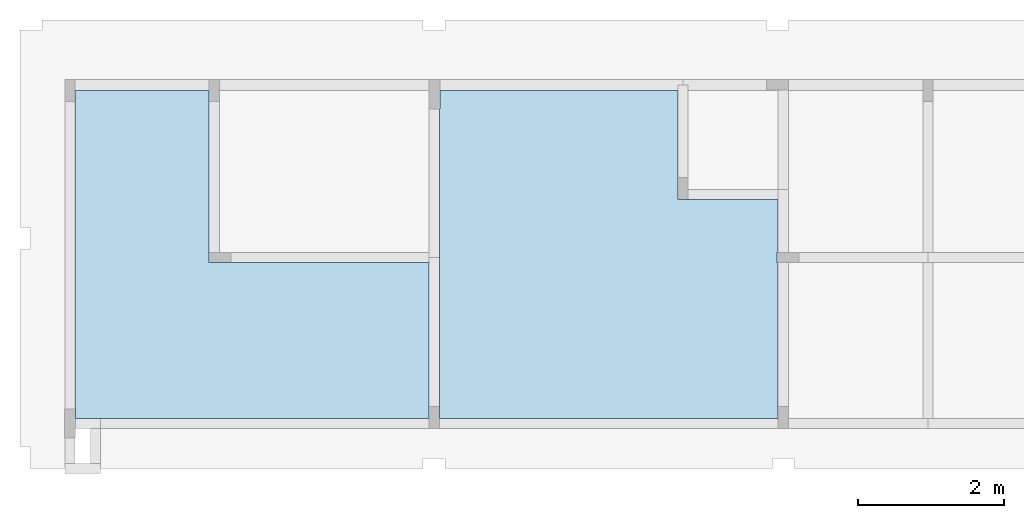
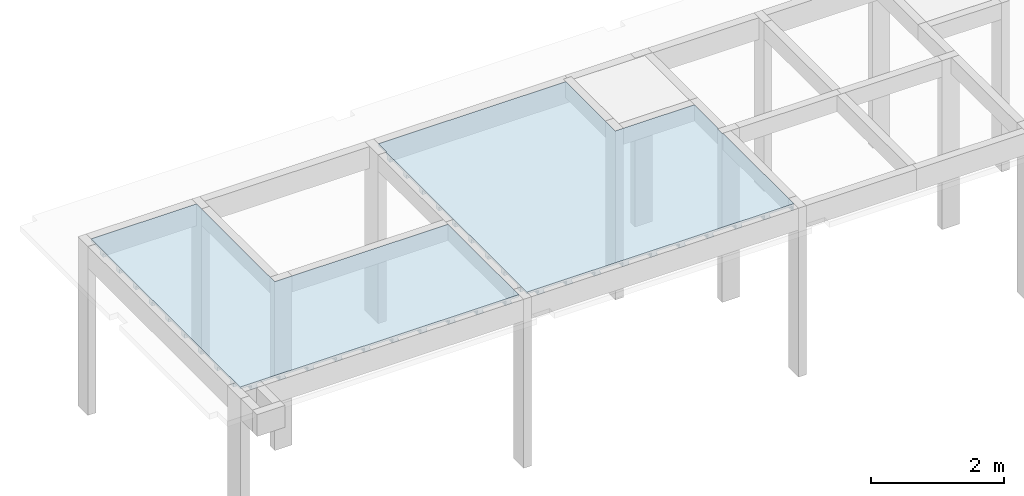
# One storey, part 2 of 4: 2 slabs.
"""IFC4 building model written with IfcOpenShell, lengths in centimetres."""

from ifc_helpers import new_model, si_unit, derived_unit, frame, origin_with_axes, place, context, project, spatial, polyline, outline, extrude, faceted_brep, material, element, save


model = new_model("IFC4")

# Units and contexts
model_context = context("Model", 3, precision=1e-05, world=origin_with_axes(), identifier="Body")
ifc_project = project(units=[si_unit("LENGTHUNIT", "METRE", prefix="CENTI"), si_unit("VOLUMEUNIT", "CUBIC_METRE"), si_unit("AREAUNIT", "SQUARE_METRE"), si_unit("POWERUNIT", "WATT"), si_unit("LUMINOUSFLUXUNIT", "LUMEN"), si_unit("ELECTRICCURRENTUNIT", "AMPERE"), si_unit("PRESSUREUNIT", "PASCAL", prefix="KILO"), si_unit("MASSUNIT", "GRAM", prefix="KILO"), si_unit("PLANEANGLEUNIT", "RADIAN"), derived_unit("VOLUMETRICFLOWRATEUNIT", [(si_unit("LENGTHUNIT", "METRE"), 3), (si_unit("TIMEUNIT", "SECOND"), -1)])], contexts=[model_context])

# Site, building, storey
site_placement = place(None, origin_with_axes())
site = spatial("IfcSite", under=ifc_project, at=site_placement)
building_placement = place(site_placement, frame((0.0, 0.0, 2.0)))
building = spatial("IfcBuilding", under=site, at=building_placement)
placement = place(building_placement, origin_with_axes())
storey_placement = place(placement, frame((0.0, 0.0, 310.0), z_axis=(0.0, 0.0, 1.0), x_axis=(1.0, 0.0, 0.0)))
storey = spatial("IfcBuildingStorey", under=building, at=storey_placement, Name="RESPALDO", CompositionType="ELEMENT", Elevation=312.0)

# Slabs
ifc_material = material(Name="Concreto")
slab_1_placement = place(storey_placement, frame((257.335, 299.575, 0.0), z_axis=(0.0, 0.0, 1.0), x_axis=(1.0, 0.0, 0.0)))
element("IfcSlab", 1, at=slab_1_placement, inside=storey, material=ifc_material, Name="L2", PredefinedType="FLOOR", context=model_context, shape_type="SolidModel", body=[
    extrude(outline(polyline([(241.835, -208.055), (241.815, -11.005), (-58.784, -11.005), (-58.785, 224.055), (-241.835, 224.055), (-241.835, -211.055), (-241.335, -211.055), (-241.335, -224.055), (241.834, -224.055), (241.835, -208.055), (241.835, -208.055)])), frame((0.0, 0.0, -4.0), z_axis=(0.0, 0.0, 1.0), x_axis=(1.0, 0.0, 0.0)), (0.0, 0.0, 1.0), 4.0),
    faceted_brep([(-172.835, -224.055, -12.0), (-172.835, 224.055, -12.0), (-163.835, 224.055, -12.0), (-163.835, -224.055, -12.0), (-163.835, -224.055, -4.0), (-163.835, 224.055, -4.0), (-172.835, 224.055, -4.0), (-172.835, -224.055, -4.0)], [[[0, 1, 2, 3]], [[4, 5, 6, 7]], [[4, 3, 5]], [[3, 2, 5]], [[5, 2, 6]], [[2, 1, 6]], [[6, 1, 7]], [[1, 0, 7]], [[7, 0, 4]], [[0, 3, 4]]]),
    faceted_brep([(-174.335, -224.055, -12.0), (-174.335, 224.055, -12.0), (-172.835, 224.055, -12.0), (-172.835, -224.055, -12.0), (-172.835, -224.055, -9.0), (-172.835, 224.055, -9.0), (-174.335, 224.055, -9.0), (-174.335, -224.055, -9.0)], [[[0, 1, 2, 3]], [[4, 5, 6, 7]], [[4, 3, 5]], [[3, 2, 5]], [[5, 2, 6]], [[2, 1, 6]], [[6, 1, 7]], [[1, 0, 7]], [[7, 0, 4]], [[0, 3, 4]]]),
    faceted_brep([(-163.835, -224.055, -12.0), (-163.835, 224.055, -12.0), (-162.335, 224.055, -12.0), (-162.335, -224.055, -12.0), (-162.335, -224.055, -9.0), (-162.335, 224.055, -9.0), (-163.835, 224.055, -9.0), (-163.835, -224.055, -9.0)], [[[0, 1, 2, 3]], [[4, 5, 6, 7]], [[4, 3, 5]], [[3, 2, 5]], [[5, 2, 6]], [[2, 1, 6]], [[6, 1, 7]], [[1, 0, 7]], [[7, 0, 4]], [[0, 3, 4]]]),
    faceted_brep([(-221.835, -224.055, -12.0), (-221.835, 224.055, -12.0), (-212.835, 224.055, -12.0), (-212.835, -224.055, -12.0), (-212.835, -224.055, -4.0), (-212.835, 224.055, -4.0), (-221.835, 224.055, -4.0), (-221.835, -224.055, -4.0)], [[[0, 1, 2, 3]], [[4, 5, 6, 7]], [[4, 3, 5]], [[3, 2, 5]], [[5, 2, 6]], [[2, 1, 6]], [[6, 1, 7]], [[1, 0, 7]], [[7, 0, 4]], [[0, 3, 4]]]),
    faceted_brep([(-223.335, -224.055, -12.0), (-223.335, 224.055, -12.0), (-221.835, 224.055, -12.0), (-221.835, -224.055, -12.0), (-221.835, -224.055, -9.0), (-221.835, 224.055, -9.0), (-223.335, 224.055, -9.0), (-223.335, -224.055, -9.0)], [[[0, 1, 2, 3]], [[4, 5, 6, 7]], [[4, 3, 5]], [[3, 2, 5]], [[5, 2, 6]], [[2, 1, 6]], [[6, 1, 7]], [[1, 0, 7]], [[7, 0, 4]], [[0, 3, 4]]]),
    faceted_brep([(-212.835, -224.055, -12.0), (-212.835, 224.055, -12.0), (-211.335, 224.055, -12.0), (-211.335, -224.055, -12.0), (-211.335, -224.055, -9.0), (-211.335, 224.055, -9.0), (-212.835, 224.055, -9.0), (-212.835, -224.055, -9.0)], [[[0, 1, 2, 3]], [[4, 5, 6, 7]], [[4, 3, 5]], [[3, 2, 5]], [[5, 2, 6]], [[2, 1, 6]], [[6, 1, 7]], [[1, 0, 7]], [[7, 0, 4]], [[0, 3, 4]]]),
    faceted_brep([(-123.835, -224.055, -12.0), (-123.835, 224.055, -12.0), (-114.835, 224.055, -12.0), (-114.835, -224.055, -12.0), (-114.835, -224.055, -4.0), (-114.835, 224.055, -4.0), (-123.835, 224.055, -4.0), (-123.835, -224.055, -4.0)], [[[0, 1, 2, 3]], [[4, 5, 6, 7]], [[4, 3, 5]], [[3, 2, 5]], [[5, 2, 6]], [[2, 1, 6]], [[6, 1, 7]], [[1, 0, 7]], [[7, 0, 4]], [[0, 3, 4]]]),
    faceted_brep([(-125.335, -224.055, -12.0), (-125.335, 224.055, -12.0), (-123.835, 224.055, -12.0), (-123.835, -224.055, -12.0), (-123.835, -224.055, -9.0), (-123.835, 224.055, -9.0), (-125.335, 224.055, -9.0), (-125.335, -224.055, -9.0)], [[[0, 1, 2, 3]], [[4, 5, 6, 7]], [[4, 3, 5]], [[3, 2, 5]], [[5, 2, 6]], [[2, 1, 6]], [[6, 1, 7]], [[1, 0, 7]], [[7, 0, 4]], [[0, 3, 4]]]),
    faceted_brep([(-114.835, -224.055, -12.0), (-114.835, 224.055, -12.0), (-113.335, 224.055, -12.0), (-113.335, -224.055, -12.0), (-113.335, -224.055, -9.0), (-113.335, 224.055, -9.0), (-114.835, 224.055, -9.0), (-114.835, -224.055, -9.0)], [[[0, 1, 2, 3]], [[4, 5, 6, 7]], [[4, 3, 5]], [[3, 2, 5]], [[5, 2, 6]], [[2, 1, 6]], [[6, 1, 7]], [[1, 0, 7]], [[7, 0, 4]], [[0, 3, 4]]]),
    faceted_brep([(-74.835, -224.055, -12.0), (-74.835, 224.055, -12.0), (-65.835, 224.055, -12.0), (-65.835, -224.055, -12.0), (-65.835, -224.055, -4.0), (-65.835, 224.055, -4.0), (-74.835, 224.055, -4.0), (-74.835, -224.055, -4.0)], [[[0, 1, 2, 3]], [[4, 5, 6, 7]], [[4, 3, 5]], [[3, 2, 5]], [[5, 2, 6]], [[2, 1, 6]], [[6, 1, 7]], [[1, 0, 7]], [[7, 0, 4]], [[0, 3, 4]]]),
    faceted_brep([(-76.335, -224.055, -12.0), (-76.335, 224.055, -12.0), (-74.835, 224.055, -12.0), (-74.835, -224.055, -12.0), (-74.835, -224.055, -9.0), (-74.835, 224.055, -9.0), (-76.335, 224.055, -9.0), (-76.335, -224.055, -9.0)], [[[0, 1, 2, 3]], [[4, 5, 6, 7]], [[4, 3, 5]], [[3, 2, 5]], [[5, 2, 6]], [[2, 1, 6]], [[6, 1, 7]], [[1, 0, 7]], [[7, 0, 4]], [[0, 3, 4]]]),
    faceted_brep([(-65.835, -224.055, -12.0), (-65.835, 224.055, -12.0), (-64.335, 224.055, -12.0), (-64.335, -224.055, -12.0), (-64.335, -224.055, -9.0), (-64.335, 224.055, -9.0), (-65.835, 224.055, -9.0), (-65.835, -224.055, -9.0)], [[[0, 1, 2, 3]], [[4, 5, 6, 7]], [[4, 3, 5]], [[3, 2, 5]], [[5, 2, 6]], [[2, 1, 6]], [[6, 1, 7]], [[1, 0, 7]], [[7, 0, 4]], [[0, 3, 4]]]),
    faceted_brep([(-25.835, -224.055, -12.0), (-25.835, -11.005, -12.0), (-16.835, -11.005, -12.0), (-16.835, -224.055, -12.0), (-16.835, -224.055, -4.0), (-16.835, -11.005, -4.0), (-25.835, -11.005, -4.0), (-25.835, -224.055, -4.0)], [[[0, 1, 2, 3]], [[4, 5, 6, 7]], [[4, 3, 5]], [[3, 2, 5]], [[5, 2, 6]], [[2, 1, 6]], [[6, 1, 7]], [[1, 0, 7]], [[7, 0, 4]], [[0, 3, 4]]]),
    faceted_brep([(-27.335, -224.055, -12.0), (-27.335, -11.005, -12.0), (-25.835, -11.005, -12.0), (-25.835, -224.055, -12.0), (-25.835, -224.055, -9.0), (-25.835, -11.005, -9.0), (-27.335, -11.005, -9.0), (-27.335, -224.055, -9.0)], [[[0, 1, 2, 3]], [[4, 5, 6, 7]], [[4, 3, 5]], [[3, 2, 5]], [[5, 2, 6]], [[2, 1, 6]], [[6, 1, 7]], [[1, 0, 7]], [[7, 0, 4]], [[0, 3, 4]]]),
    faceted_brep([(-16.835, -224.055, -12.0), (-16.835, -11.005, -12.0), (-15.335, -11.005, -12.0), (-15.335, -224.055, -12.0), (-15.335, -224.055, -9.0), (-15.335, -11.005, -9.0), (-16.835, -11.005, -9.0), (-16.835, -224.055, -9.0)], [[[0, 1, 2, 3]], [[4, 5, 6, 7]], [[4, 3, 5]], [[3, 2, 5]], [[5, 2, 6]], [[2, 1, 6]], [[6, 1, 7]], [[1, 0, 7]], [[7, 0, 4]], [[0, 3, 4]]]),
    faceted_brep([(23.165, -224.055, -12.0), (23.165, -11.005, -12.0), (32.165, -11.005, -12.0), (32.165, -224.055, -12.0), (32.165, -224.055, -4.0), (32.165, -11.005, -4.0), (23.165, -11.005, -4.0), (23.165, -224.055, -4.0)], [[[0, 1, 2, 3]], [[4, 5, 6, 7]], [[4, 3, 5]], [[3, 2, 5]], [[5, 2, 6]], [[2, 1, 6]], [[6, 1, 7]], [[1, 0, 7]], [[7, 0, 4]], [[0, 3, 4]]]),
    faceted_brep([(21.665, -224.055, -12.0), (21.665, -11.005, -12.0), (23.165, -11.005, -12.0), (23.165, -224.055, -12.0), (23.165, -224.055, -9.0), (23.165, -11.005, -9.0), (21.665, -11.005, -9.0), (21.665, -224.055, -9.0)], [[[0, 1, 2, 3]], [[4, 5, 6, 7]], [[4, 3, 5]], [[3, 2, 5]], [[5, 2, 6]], [[2, 1, 6]], [[6, 1, 7]], [[1, 0, 7]], [[7, 0, 4]], [[0, 3, 4]]]),
    faceted_brep([(32.165, -224.055, -12.0), (32.165, -11.005, -12.0), (33.665, -11.005, -12.0), (33.665, -224.055, -12.0), (33.665, -224.055, -9.0), (33.665, -11.005, -9.0), (32.165, -11.005, -9.0), (32.165, -224.055, -9.0)], [[[0, 1, 2, 3]], [[4, 5, 6, 7]], [[4, 3, 5]], [[3, 2, 5]], [[5, 2, 6]], [[2, 1, 6]], [[6, 1, 7]], [[1, 0, 7]], [[7, 0, 4]], [[0, 3, 4]]]),
    faceted_brep([(72.165, -224.055, -12.0), (72.165, -11.005, -12.0), (81.165, -11.005, -12.0), (81.165, -224.055, -12.0), (81.165, -224.055, -4.0), (81.165, -11.005, -4.0), (72.165, -11.005, -4.0), (72.165, -224.055, -4.0)], [[[0, 1, 2, 3]], [[4, 5, 6, 7]], [[4, 3, 5]], [[3, 2, 5]], [[5, 2, 6]], [[2, 1, 6]], [[6, 1, 7]], [[1, 0, 7]], [[7, 0, 4]], [[0, 3, 4]]]),
    faceted_brep([(70.665, -224.055, -12.0), (70.665, -11.005, -12.0), (72.165, -11.005, -12.0), (72.165, -224.055, -12.0), (72.165, -224.055, -9.0), (72.165, -11.005, -9.0), (70.665, -11.005, -9.0), (70.665, -224.055, -9.0)], [[[0, 1, 2, 3]], [[4, 5, 6, 7]], [[4, 3, 5]], [[3, 2, 5]], [[5, 2, 6]], [[2, 1, 6]], [[6, 1, 7]], [[1, 0, 7]], [[7, 0, 4]], [[0, 3, 4]]]),
    faceted_brep([(81.165, -224.055, -12.0), (81.165, -11.005, -12.0), (82.665, -11.005, -12.0), (82.665, -224.055, -12.0), (82.665, -224.055, -9.0), (82.665, -11.005, -9.0), (81.165, -11.005, -9.0), (81.165, -224.055, -9.0)], [[[0, 1, 2, 3]], [[4, 5, 6, 7]], [[4, 3, 5]], [[3, 2, 5]], [[5, 2, 6]], [[2, 1, 6]], [[6, 1, 7]], [[1, 0, 7]], [[7, 0, 4]], [[0, 3, 4]]]),
    faceted_brep([(121.165, -224.055, -12.0), (121.165, -11.005, -12.0), (130.165, -11.005, -12.0), (130.165, -224.055, -12.0), (130.165, -224.055, -4.0), (130.165, -11.005, -4.0), (121.165, -11.005, -4.0), (121.165, -224.055, -4.0)], [[[0, 1, 2, 3]], [[4, 5, 6, 7]], [[4, 3, 5]], [[3, 2, 5]], [[5, 2, 6]], [[2, 1, 6]], [[6, 1, 7]], [[1, 0, 7]], [[7, 0, 4]], [[0, 3, 4]]]),
    faceted_brep([(119.665, -224.055, -12.0), (119.665, -11.005, -12.0), (121.165, -11.005, -12.0), (121.165, -224.055, -12.0), (121.165, -224.055, -9.0), (121.165, -11.005, -9.0), (119.665, -11.005, -9.0), (119.665, -224.055, -9.0)], [[[0, 1, 2, 3]], [[4, 5, 6, 7]], [[4, 3, 5]], [[3, 2, 5]], [[5, 2, 6]], [[2, 1, 6]], [[6, 1, 7]], [[1, 0, 7]], [[7, 0, 4]], [[0, 3, 4]]]),
    faceted_brep([(130.165, -224.055, -12.0), (130.165, -11.005, -12.0), (131.665, -11.005, -12.0), (131.665, -224.055, -12.0), (131.665, -224.055, -9.0), (131.665, -11.005, -9.0), (130.165, -11.005, -9.0), (130.165, -224.055, -9.0)], [[[0, 1, 2, 3]], [[4, 5, 6, 7]], [[4, 3, 5]], [[3, 2, 5]], [[5, 2, 6]], [[2, 1, 6]], [[6, 1, 7]], [[1, 0, 7]], [[7, 0, 4]], [[0, 3, 4]]]),
    faceted_brep([(170.165, -224.055, -12.0), (170.165, -11.005, -12.0), (179.165, -11.005, -12.0), (179.165, -224.055, -12.0), (179.165, -224.055, -4.0), (179.165, -11.005, -4.0), (170.165, -11.005, -4.0), (170.165, -224.055, -4.0)], [[[0, 1, 2, 3]], [[4, 5, 6, 7]], [[4, 3, 5]], [[3, 2, 5]], [[5, 2, 6]], [[2, 1, 6]], [[6, 1, 7]], [[1, 0, 7]], [[7, 0, 4]], [[0, 3, 4]]]),
    faceted_brep([(168.665, -224.055, -12.0), (168.665, -11.005, -12.0), (170.165, -11.005, -12.0), (170.165, -224.055, -12.0), (170.165, -224.055, -9.0), (170.165, -11.005, -9.0), (168.665, -11.005, -9.0), (168.665, -224.055, -9.0)], [[[0, 1, 2, 3]], [[4, 5, 6, 7]], [[4, 3, 5]], [[3, 2, 5]], [[5, 2, 6]], [[2, 1, 6]], [[6, 1, 7]], [[1, 0, 7]], [[7, 0, 4]], [[0, 3, 4]]]),
    faceted_brep([(179.165, -224.055, -12.0), (179.165, -11.005, -12.0), (180.665, -11.005, -12.0), (180.665, -224.055, -12.0), (180.665, -224.055, -9.0), (180.665, -11.005, -9.0), (179.165, -11.005, -9.0), (179.165, -224.055, -9.0)], [[[0, 1, 2, 3]], [[4, 5, 6, 7]], [[4, 3, 5]], [[3, 2, 5]], [[5, 2, 6]], [[2, 1, 6]], [[6, 1, 7]], [[1, 0, 7]], [[7, 0, 4]], [[0, 3, 4]]]),
    faceted_brep([(219.165, -224.055, -12.0), (219.165, -11.005, -12.0), (228.165, -11.005, -12.0), (228.165, -224.055, -12.0), (228.165, -224.055, -4.0), (228.165, -11.005, -4.0), (219.165, -11.005, -4.0), (219.165, -224.055, -4.0)], [[[0, 1, 2, 3]], [[4, 5, 6, 7]], [[4, 3, 5]], [[3, 2, 5]], [[5, 2, 6]], [[2, 1, 6]], [[6, 1, 7]], [[1, 0, 7]], [[7, 0, 4]], [[0, 3, 4]]]),
    faceted_brep([(217.665, -224.055, -12.0), (217.665, -11.005, -12.0), (219.165, -11.005, -12.0), (219.165, -224.055, -12.0), (219.165, -224.055, -9.0), (219.165, -11.005, -9.0), (217.665, -11.005, -9.0), (217.665, -224.055, -9.0)], [[[0, 1, 2, 3]], [[4, 5, 6, 7]], [[4, 3, 5]], [[3, 2, 5]], [[5, 2, 6]], [[2, 1, 6]], [[6, 1, 7]], [[1, 0, 7]], [[7, 0, 4]], [[0, 3, 4]]]),
    faceted_brep([(228.165, -224.055, -12.0), (228.165, -11.005, -12.0), (229.665, -11.005, -12.0), (229.665, -224.055, -12.0), (229.665, -224.055, -9.0), (229.665, -11.005, -9.0), (228.165, -11.005, -9.0), (228.165, -224.055, -9.0)], [[[0, 1, 2, 3]], [[4, 5, 6, 7]], [[4, 3, 5]], [[3, 2, 5]], [[5, 2, 6]], [[2, 1, 6]], [[6, 1, 7]], [[1, 0, 7]], [[7, 0, 4]], [[0, 3, 4]]]),
    faceted_brep([(-241.835, -195.555, -12.0), (241.83145834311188, -195.555, -12.0), (241.83226097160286, -204.555, -12.0), (-241.835, -204.555, -12.0), (-241.835, -204.555, -4.0), (241.83226097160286, -204.555, -4.0), (241.83145834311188, -195.555, -4.0), (-241.835, -195.555, -4.0)], [[[0, 1, 2, 3]], [[4, 5, 6, 7]], [[4, 3, 5]], [[3, 2, 5]], [[5, 2, 6]], [[2, 1, 6]], [[6, 1, 7]], [[1, 0, 7]], [[7, 0, 4]], [[0, 3, 4]]]),
    faceted_brep([(-241.835, -146.555, -12.0), (241.82708847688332, -146.555, -12.0), (241.8278911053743, -155.555, -12.0), (-241.835, -155.555, -12.0), (-241.835, -155.555, -4.0), (241.8278911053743, -155.555, -4.0), (241.82708847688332, -146.555, -4.0), (-241.835, -146.555, -4.0)], [[[0, 1, 2, 3]], [[4, 5, 6, 7]], [[4, 3, 5]], [[3, 2, 5]], [[5, 2, 6]], [[2, 1, 6]], [[6, 1, 7]], [[1, 0, 7]], [[7, 0, 4]], [[0, 3, 4]]]),
    faceted_brep([(-241.835, -97.555, -12.0), (241.82271861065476, -97.555, -12.0), (241.8235212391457, -106.555, -12.0), (-241.835, -106.555, -12.0), (-241.835, -106.555, -4.0), (241.8235212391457, -106.555, -4.0), (241.82271861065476, -97.555, -4.0), (-241.835, -97.555, -4.0)], [[[0, 1, 2, 3]], [[4, 5, 6, 7]], [[4, 3, 5]], [[3, 2, 5]], [[5, 2, 6]], [[2, 1, 6]], [[6, 1, 7]], [[1, 0, 7]], [[7, 0, 4]], [[0, 3, 4]]]),
    faceted_brep([(-241.835, -48.555, -12.0), (241.81834874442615, -48.555, -12.0), (241.81915137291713, -57.555, -12.0), (-241.835, -57.555, -12.0), (-241.835, -57.555, -4.0), (241.81915137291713, -57.555, -4.0), (241.81834874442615, -48.555, -4.0), (-241.835, -48.555, -4.0)], [[[0, 1, 2, 3]], [[4, 5, 6, 7]], [[4, 3, 5]], [[3, 2, 5]], [[5, 2, 6]], [[2, 1, 6]], [[6, 1, 7]], [[1, 0, 7]], [[7, 0, 4]], [[0, 3, 4]]]),
    faceted_brep([(-241.835, 0.445, -12.0), (-58.7845, 0.445, -12.0), (-58.7845, -8.555, -12.0), (-241.835, -8.555, -12.0), (-241.835, -8.555, -4.0), (-58.7845, -8.555, -4.0), (-58.7845, 0.445, -4.0), (-241.835, 0.445, -4.0)], [[[0, 1, 2, 3]], [[4, 5, 6, 7]], [[4, 3, 5]], [[3, 2, 5]], [[5, 2, 6]], [[2, 1, 6]], [[6, 1, 7]], [[1, 0, 7]], [[7, 0, 4]], [[0, 3, 4]]]),
    faceted_brep([(-241.835, 49.445, -12.0), (-58.7845, 49.445, -12.0), (-58.7845, 40.445, -12.0), (-241.835, 40.445, -12.0), (-241.835, 40.445, -4.0), (-58.7845, 40.445, -4.0), (-58.7845, 49.445, -4.0), (-241.835, 49.445, -4.0)], [[[0, 1, 2, 3]], [[4, 5, 6, 7]], [[4, 3, 5]], [[3, 2, 5]], [[5, 2, 6]], [[2, 1, 6]], [[6, 1, 7]], [[1, 0, 7]], [[7, 0, 4]], [[0, 3, 4]]]),
    faceted_brep([(-241.835, 98.445, -12.0), (-58.7845, 98.445, -12.0), (-58.7845, 89.445, -12.0), (-241.835, 89.445, -12.0), (-241.835, 89.445, -4.0), (-58.7845, 89.445, -4.0), (-58.7845, 98.445, -4.0), (-241.835, 98.445, -4.0)], [[[0, 1, 2, 3]], [[4, 5, 6, 7]], [[4, 3, 5]], [[3, 2, 5]], [[5, 2, 6]], [[2, 1, 6]], [[6, 1, 7]], [[1, 0, 7]], [[7, 0, 4]], [[0, 3, 4]]]),
    faceted_brep([(-241.835, 147.445, -12.0), (-58.7845, 147.445, -12.0), (-58.7845, 138.445, -12.0), (-241.835, 138.445, -12.0), (-241.835, 138.445, -4.0), (-58.7845, 138.445, -4.0), (-58.7845, 147.445, -4.0), (-241.835, 147.445, -4.0)], [[[0, 1, 2, 3]], [[4, 5, 6, 7]], [[4, 3, 5]], [[3, 2, 5]], [[5, 2, 6]], [[2, 1, 6]], [[6, 1, 7]], [[1, 0, 7]], [[7, 0, 4]], [[0, 3, 4]]]),
    faceted_brep([(-241.835, 196.445, -12.0), (-58.7845, 196.445, -12.0), (-58.7845, 187.445, -12.0), (-241.835, 187.445, -12.0), (-241.835, 187.445, -4.0), (-58.7845, 187.445, -4.0), (-58.7845, 196.445, -4.0), (-241.835, 196.445, -4.0)], [[[0, 1, 2, 3]], [[4, 5, 6, 7]], [[4, 3, 5]], [[3, 2, 5]], [[5, 2, 6]], [[2, 1, 6]], [[6, 1, 7]], [[1, 0, 7]], [[7, 0, 4]], [[0, 3, 4]]]),
])
slab_2_placement = place(storey_placement, frame((744.715, 299.5745, 0.0), z_axis=(0.0, 0.0, 1.0), x_axis=(1.0, 0.0, 0.0)))
element("IfcSlab", 2, at=slab_2_placement, inside=storey, material=ifc_material, Name="L4", PredefinedType="FLOOR", context=model_context, shape_type="SolidModel", body=[
    extrude(outline(polyline([(231.564, -10.994), (230.064, -10.995), (230.064, 3.004), (231.564, 3.004), (231.565, 75.015), (94.525, 75.014), (94.524, 224.054), (-230.565, 224.054), (-230.565, 199.055), (-231.565, 199.055), (-231.565, -4.005), (-231.544, -224.055), (231.564, -224.055), (231.564, -10.994), (231.564, -10.994)])), frame((0.0, 0.0005, -4.0), z_axis=(0.0, 0.0, 1.0), x_axis=(1.0, 0.0, 0.0)), (0.0, 0.0, 1.0), 4.0),
    faceted_brep([(-211.545, -224.0545, -12.0), (-211.545, 224.0545, -12.0), (-202.545, 224.0545, -12.0), (-202.545, -224.0545, -12.0), (-202.545, -224.0545, -4.0), (-202.545, 224.0545, -4.0), (-211.545, 224.0545, -4.0), (-211.545, -224.0545, -4.0)], [[[0, 1, 2, 3]], [[4, 5, 6, 7]], [[4, 3, 5]], [[3, 2, 5]], [[5, 2, 6]], [[2, 1, 6]], [[6, 1, 7]], [[1, 0, 7]], [[7, 0, 4]], [[0, 3, 4]]]),
    faceted_brep([(-213.045, -224.0545, -12.0), (-213.045, 224.0545, -12.0), (-211.545, 224.0545, -12.0), (-211.545, -224.0545, -12.0), (-211.545, -224.0545, -9.0), (-211.545, 224.0545, -9.0), (-213.045, 224.0545, -9.0), (-213.045, -224.0545, -9.0)], [[[0, 1, 2, 3]], [[4, 5, 6, 7]], [[4, 3, 5]], [[3, 2, 5]], [[5, 2, 6]], [[2, 1, 6]], [[6, 1, 7]], [[1, 0, 7]], [[7, 0, 4]], [[0, 3, 4]]]),
    faceted_brep([(-202.545, -224.0545, -12.0), (-202.545, 224.0545, -12.0), (-201.045, 224.0545, -12.0), (-201.045, -224.0545, -12.0), (-201.045, -224.0545, -9.0), (-201.045, 224.0545, -9.0), (-202.545, 224.0545, -9.0), (-202.545, -224.0545, -9.0)], [[[0, 1, 2, 3]], [[4, 5, 6, 7]], [[4, 3, 5]], [[3, 2, 5]], [[5, 2, 6]], [[2, 1, 6]], [[6, 1, 7]], [[1, 0, 7]], [[7, 0, 4]], [[0, 3, 4]]]),
    faceted_brep([(-162.545, -224.0545, -12.0), (-162.545, 224.0545, -12.0), (-153.545, 224.0545, -12.0), (-153.545, -224.0545, -12.0), (-153.545, -224.0545, -4.0), (-153.545, 224.0545, -4.0), (-162.545, 224.0545, -4.0), (-162.545, -224.0545, -4.0)], [[[0, 1, 2, 3]], [[4, 5, 6, 7]], [[4, 3, 5]], [[3, 2, 5]], [[5, 2, 6]], [[2, 1, 6]], [[6, 1, 7]], [[1, 0, 7]], [[7, 0, 4]], [[0, 3, 4]]]),
    faceted_brep([(-164.045, -224.0545, -12.0), (-164.045, 224.0545, -12.0), (-162.545, 224.0545, -12.0), (-162.545, -224.0545, -12.0), (-162.545, -224.0545, -9.0), (-162.545, 224.0545, -9.0), (-164.045, 224.0545, -9.0), (-164.045, -224.0545, -9.0)], [[[0, 1, 2, 3]], [[4, 5, 6, 7]], [[4, 3, 5]], [[3, 2, 5]], [[5, 2, 6]], [[2, 1, 6]], [[6, 1, 7]], [[1, 0, 7]], [[7, 0, 4]], [[0, 3, 4]]]),
    faceted_brep([(-153.545, -224.0545, -12.0), (-153.545, 224.0545, -12.0), (-152.045, 224.0545, -12.0), (-152.045, -224.0545, -12.0), (-152.045, -224.0545, -9.0), (-152.045, 224.0545, -9.0), (-153.545, 224.0545, -9.0), (-153.545, -224.0545, -9.0)], [[[0, 1, 2, 3]], [[4, 5, 6, 7]], [[4, 3, 5]], [[3, 2, 5]], [[5, 2, 6]], [[2, 1, 6]], [[6, 1, 7]], [[1, 0, 7]], [[7, 0, 4]], [[0, 3, 4]]]),
    faceted_brep([(-113.545, -224.0545, -12.0), (-113.545, 224.0545, -12.0), (-104.545, 224.0545, -12.0), (-104.545, -224.0545, -12.0), (-104.545, -224.0545, -4.0), (-104.545, 224.0545, -4.0), (-113.545, 224.0545, -4.0), (-113.545, -224.0545, -4.0)], [[[0, 1, 2, 3]], [[4, 5, 6, 7]], [[4, 3, 5]], [[3, 2, 5]], [[5, 2, 6]], [[2, 1, 6]], [[6, 1, 7]], [[1, 0, 7]], [[7, 0, 4]], [[0, 3, 4]]]),
    faceted_brep([(-115.045, -224.0545, -12.0), (-115.045, 224.0545, -12.0), (-113.545, 224.0545, -12.0), (-113.545, -224.0545, -12.0), (-113.545, -224.0545, -9.0), (-113.545, 224.0545, -9.0), (-115.045, 224.0545, -9.0), (-115.045, -224.0545, -9.0)], [[[0, 1, 2, 3]], [[4, 5, 6, 7]], [[4, 3, 5]], [[3, 2, 5]], [[5, 2, 6]], [[2, 1, 6]], [[6, 1, 7]], [[1, 0, 7]], [[7, 0, 4]], [[0, 3, 4]]]),
    faceted_brep([(-104.545, -224.0545, -12.0), (-104.545, 224.0545, -12.0), (-103.045, 224.0545, -12.0), (-103.045, -224.0545, -12.0), (-103.045, -224.0545, -9.0), (-103.045, 224.0545, -9.0), (-104.545, 224.0545, -9.0), (-104.545, -224.0545, -9.0)], [[[0, 1, 2, 3]], [[4, 5, 6, 7]], [[4, 3, 5]], [[3, 2, 5]], [[5, 2, 6]], [[2, 1, 6]], [[6, 1, 7]], [[1, 0, 7]], [[7, 0, 4]], [[0, 3, 4]]]),
    faceted_brep([(-64.545, -224.0545, -12.0), (-64.545, 224.0545, -12.0), (-55.545, 224.0545, -12.0), (-55.545, -224.0545, -12.0), (-55.545, -224.0545, -4.0), (-55.545, 224.0545, -4.0), (-64.545, 224.0545, -4.0), (-64.545, -224.0545, -4.0)], [[[0, 1, 2, 3]], [[4, 5, 6, 7]], [[4, 3, 5]], [[3, 2, 5]], [[5, 2, 6]], [[2, 1, 6]], [[6, 1, 7]], [[1, 0, 7]], [[7, 0, 4]], [[0, 3, 4]]]),
    faceted_brep([(-66.045, -224.0545, -12.0), (-66.045, 224.0545, -12.0), (-64.545, 224.0545, -12.0), (-64.545, -224.0545, -12.0), (-64.545, -224.0545, -9.0), (-64.545, 224.0545, -9.0), (-66.045, 224.0545, -9.0), (-66.045, -224.0545, -9.0)], [[[0, 1, 2, 3]], [[4, 5, 6, 7]], [[4, 3, 5]], [[3, 2, 5]], [[5, 2, 6]], [[2, 1, 6]], [[6, 1, 7]], [[1, 0, 7]], [[7, 0, 4]], [[0, 3, 4]]]),
    faceted_brep([(-55.545, -224.0545, -12.0), (-55.545, 224.0545, -12.0), (-54.045, 224.0545, -12.0), (-54.045, -224.0545, -12.0), (-54.045, -224.0545, -9.0), (-54.045, 224.0545, -9.0), (-55.545, 224.0545, -9.0), (-55.545, -224.0545, -9.0)], [[[0, 1, 2, 3]], [[4, 5, 6, 7]], [[4, 3, 5]], [[3, 2, 5]], [[5, 2, 6]], [[2, 1, 6]], [[6, 1, 7]], [[1, 0, 7]], [[7, 0, 4]], [[0, 3, 4]]]),
    faceted_brep([(-15.545, -224.0545, -12.0), (-15.545, 224.0545, -12.0), (-6.545, 224.0545, -12.0), (-6.545, -224.0545, -12.0), (-6.545, -224.0545, -4.0), (-6.545, 224.0545, -4.0), (-15.545, 224.0545, -4.0), (-15.545, -224.0545, -4.0)], [[[0, 1, 2, 3]], [[4, 5, 6, 7]], [[4, 3, 5]], [[3, 2, 5]], [[5, 2, 6]], [[2, 1, 6]], [[6, 1, 7]], [[1, 0, 7]], [[7, 0, 4]], [[0, 3, 4]]]),
    faceted_brep([(-17.045, -224.0545, -12.0), (-17.045, 224.0545, -12.0), (-15.545, 224.0545, -12.0), (-15.545, -224.0545, -12.0), (-15.545, -224.0545, -9.0), (-15.545, 224.0545, -9.0), (-17.045, 224.0545, -9.0), (-17.045, -224.0545, -9.0)], [[[0, 1, 2, 3]], [[4, 5, 6, 7]], [[4, 3, 5]], [[3, 2, 5]], [[5, 2, 6]], [[2, 1, 6]], [[6, 1, 7]], [[1, 0, 7]], [[7, 0, 4]], [[0, 3, 4]]]),
    faceted_brep([(-6.545, -224.0545, -12.0), (-6.545, 224.0545, -12.0), (-5.045, 224.0545, -12.0), (-5.045, -224.0545, -12.0), (-5.045, -224.0545, -9.0), (-5.045, 224.0545, -9.0), (-6.545, 224.0545, -9.0), (-6.545, -224.0545, -9.0)], [[[0, 1, 2, 3]], [[4, 5, 6, 7]], [[4, 3, 5]], [[3, 2, 5]], [[5, 2, 6]], [[2, 1, 6]], [[6, 1, 7]], [[1, 0, 7]], [[7, 0, 4]], [[0, 3, 4]]]),
    faceted_brep([(33.455, -224.0545, -12.0), (33.455, 224.0545, -12.0), (42.455, 224.0545, -12.0), (42.455, -224.0545, -12.0), (42.455, -224.0545, -4.0), (42.455, 224.0545, -4.0), (33.455, 224.0545, -4.0), (33.455, -224.0545, -4.0)], [[[0, 1, 2, 3]], [[4, 5, 6, 7]], [[4, 3, 5]], [[3, 2, 5]], [[5, 2, 6]], [[2, 1, 6]], [[6, 1, 7]], [[1, 0, 7]], [[7, 0, 4]], [[0, 3, 4]]]),
    faceted_brep([(31.955, -224.0545, -12.0), (31.955, 224.0545, -12.0), (33.455, 224.0545, -12.0), (33.455, -224.0545, -12.0), (33.455, -224.0545, -9.0), (33.455, 224.0545, -9.0), (31.955, 224.0545, -9.0), (31.955, -224.0545, -9.0)], [[[0, 1, 2, 3]], [[4, 5, 6, 7]], [[4, 3, 5]], [[3, 2, 5]], [[5, 2, 6]], [[2, 1, 6]], [[6, 1, 7]], [[1, 0, 7]], [[7, 0, 4]], [[0, 3, 4]]]),
    faceted_brep([(42.455, -224.0545, -12.0), (42.455, 224.0545, -12.0), (43.955, 224.0545, -12.0), (43.955, -224.0545, -12.0), (43.955, -224.0545, -9.0), (43.955, 224.0545, -9.0), (42.455, 224.0545, -9.0), (42.455, -224.0545, -9.0)], [[[0, 1, 2, 3]], [[4, 5, 6, 7]], [[4, 3, 5]], [[3, 2, 5]], [[5, 2, 6]], [[2, 1, 6]], [[6, 1, 7]], [[1, 0, 7]], [[7, 0, 4]], [[0, 3, 4]]]),
    faceted_brep([(82.455, -224.0545, -12.0), (82.455, 224.0545, -12.0), (91.455, 224.0545, -12.0), (91.455, -224.0545, -12.0), (91.455, -224.0545, -4.0), (91.455, 224.0545, -4.0), (82.455, 224.0545, -4.0), (82.455, -224.0545, -4.0)], [[[0, 1, 2, 3]], [[4, 5, 6, 7]], [[4, 3, 5]], [[3, 2, 5]], [[5, 2, 6]], [[2, 1, 6]], [[6, 1, 7]], [[1, 0, 7]], [[7, 0, 4]], [[0, 3, 4]]]),
    faceted_brep([(80.955, -224.0545, -12.0), (80.955, 224.0545, -12.0), (82.455, 224.0545, -12.0), (82.455, -224.0545, -12.0), (82.455, -224.0545, -9.0), (82.455, 224.0545, -9.0), (80.955, 224.0545, -9.0), (80.955, -224.0545, -9.0)], [[[0, 1, 2, 3]], [[4, 5, 6, 7]], [[4, 3, 5]], [[3, 2, 5]], [[5, 2, 6]], [[2, 1, 6]], [[6, 1, 7]], [[1, 0, 7]], [[7, 0, 4]], [[0, 3, 4]]]),
    faceted_brep([(91.455, -224.0545, -12.0), (91.455, 224.0545, -12.0), (92.955, 224.0545, -12.0), (92.955, -224.0545, -12.0), (92.955, -224.0545, -9.0), (92.955, 224.0545, -9.0), (91.455, 224.0545, -9.0), (91.455, -224.0545, -9.0)], [[[0, 1, 2, 3]], [[4, 5, 6, 7]], [[4, 3, 5]], [[3, 2, 5]], [[5, 2, 6]], [[2, 1, 6]], [[6, 1, 7]], [[1, 0, 7]], [[7, 0, 4]], [[0, 3, 4]]]),
    faceted_brep([(131.455, -224.0545, -12.0), (131.455, 75.015, -12.0), (140.455, 75.015, -12.0), (140.455, -224.0545, -12.0), (140.455, -224.0545, -4.0), (140.455, 75.015, -4.0), (131.455, 75.015, -4.0), (131.455, -224.0545, -4.0)], [[[0, 1, 2, 3]], [[4, 5, 6, 7]], [[4, 3, 5]], [[3, 2, 5]], [[5, 2, 6]], [[2, 1, 6]], [[6, 1, 7]], [[1, 0, 7]], [[7, 0, 4]], [[0, 3, 4]]]),
    faceted_brep([(129.955, -224.0545, -12.0), (129.955, 75.015, -12.0), (131.455, 75.015, -12.0), (131.455, -224.0545, -12.0), (131.455, -224.0545, -9.0), (131.455, 75.015, -9.0), (129.955, 75.015, -9.0), (129.955, -224.0545, -9.0)], [[[0, 1, 2, 3]], [[4, 5, 6, 7]], [[4, 3, 5]], [[3, 2, 5]], [[5, 2, 6]], [[2, 1, 6]], [[6, 1, 7]], [[1, 0, 7]], [[7, 0, 4]], [[0, 3, 4]]]),
    faceted_brep([(140.455, -224.0545, -12.0), (140.455, 75.015, -12.0), (141.955, 75.015, -12.0), (141.955, -224.0545, -12.0), (141.955, -224.0545, -9.0), (141.955, 75.015, -9.0), (140.455, 75.015, -9.0), (140.455, -224.0545, -9.0)], [[[0, 1, 2, 3]], [[4, 5, 6, 7]], [[4, 3, 5]], [[3, 2, 5]], [[5, 2, 6]], [[2, 1, 6]], [[6, 1, 7]], [[1, 0, 7]], [[7, 0, 4]], [[0, 3, 4]]]),
    faceted_brep([(180.455, -224.0545, -12.0), (180.455, 75.015, -12.0), (189.455, 75.015, -12.0), (189.455, -224.0545, -12.0), (189.455, -224.0545, -4.0), (189.455, 75.015, -4.0), (180.455, 75.015, -4.0), (180.455, -224.0545, -4.0)], [[[0, 1, 2, 3]], [[4, 5, 6, 7]], [[4, 3, 5]], [[3, 2, 5]], [[5, 2, 6]], [[2, 1, 6]], [[6, 1, 7]], [[1, 0, 7]], [[7, 0, 4]], [[0, 3, 4]]]),
    faceted_brep([(178.955, -224.0545, -12.0), (178.955, 75.015, -12.0), (180.455, 75.015, -12.0), (180.455, -224.0545, -12.0), (180.455, -224.0545, -9.0), (180.455, 75.015, -9.0), (178.955, 75.015, -9.0), (178.955, -224.0545, -9.0)], [[[0, 1, 2, 3]], [[4, 5, 6, 7]], [[4, 3, 5]], [[3, 2, 5]], [[5, 2, 6]], [[2, 1, 6]], [[6, 1, 7]], [[1, 0, 7]], [[7, 0, 4]], [[0, 3, 4]]]),
    faceted_brep([(189.455, -224.0545, -12.0), (189.455, 75.015, -12.0), (190.955, 75.015, -12.0), (190.955, -224.0545, -12.0), (190.955, -224.0545, -9.0), (190.955, 75.015, -9.0), (189.455, 75.015, -9.0), (189.455, -224.0545, -9.0)], [[[0, 1, 2, 3]], [[4, 5, 6, 7]], [[4, 3, 5]], [[3, 2, 5]], [[5, 2, 6]], [[2, 1, 6]], [[6, 1, 7]], [[1, 0, 7]], [[7, 0, 4]], [[0, 3, 4]]]),
    faceted_brep([(229.455, -224.0545, -12.0), (229.455, 75.015, -12.0), (231.5645, 75.01548460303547, -12.0), (231.564, -224.0545, -12.0), (231.564, -224.0545, -4.0), (231.5645, 75.01548460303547, -4.0), (229.455, 75.015, -4.0), (229.455, -224.0545, -4.0)], [[[0, 1, 2, 3]], [[4, 5, 6, 7]], [[4, 3, 5]], [[3, 2, 5]], [[5, 2, 6]], [[2, 1, 6]], [[6, 1, 7]], [[1, 0, 7]], [[7, 0, 4]], [[0, 3, 4]]]),
    faceted_brep([(227.955, -224.0545, -12.0), (227.955, 75.015, -12.0), (229.455, 75.015, -12.0), (229.455, -224.0545, -12.0), (229.455, -224.0545, -9.0), (229.455, 75.015, -9.0), (227.955, 75.015, -9.0), (227.955, -224.0545, -9.0)], [[[0, 1, 2, 3]], [[4, 5, 6, 7]], [[4, 3, 5]], [[3, 2, 5]], [[5, 2, 6]], [[2, 1, 6]], [[6, 1, 7]], [[1, 0, 7]], [[7, 0, 4]], [[0, 3, 4]]]),
    faceted_brep([(-231.54541452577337, -195.5545, -12.0), (231.564, -195.5545, -12.0), (231.564, -204.5545, -12.0), (-231.54496783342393, -204.5545, -12.0), (-231.54496783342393, -204.5545, -4.0), (231.564, -204.5545, -4.0), (231.564, -195.5545, -4.0), (-231.54541452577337, -195.5545, -4.0)], [[[0, 1, 2, 3]], [[4, 5, 6, 7]], [[4, 3, 5]], [[3, 2, 5]], [[5, 2, 6]], [[2, 1, 6]], [[6, 1, 7]], [[1, 0, 7]], [[7, 0, 4]], [[0, 3, 4]]]),
    faceted_brep([(-231.5478465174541, -146.5545, -12.0), (231.564, -146.5545, -12.0), (231.564, -155.5545, -12.0), (-231.54739982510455, -155.5545, -12.0), (-231.54739982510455, -155.5545, -4.0), (231.564, -155.5545, -4.0), (231.564, -146.5545, -4.0), (-231.5478465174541, -146.5545, -4.0)], [[[0, 1, 2, 3]], [[4, 5, 6, 7]], [[4, 3, 5]], [[3, 2, 5]], [[5, 2, 6]], [[2, 1, 6]], [[6, 1, 7]], [[1, 0, 7]], [[7, 0, 4]], [[0, 3, 4]]]),
    faceted_brep([(-231.55027850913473, -97.5545, -12.0), (231.564, -97.5545, -12.0), (231.564, -106.5545, -12.0), (-231.54983181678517, -106.5545, -12.0), (-231.54983181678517, -106.5545, -4.0), (231.564, -106.5545, -4.0), (231.564, -97.5545, -4.0), (-231.55027850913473, -97.5545, -4.0)], [[[0, 1, 2, 3]], [[4, 5, 6, 7]], [[4, 3, 5]], [[3, 2, 5]], [[5, 2, 6]], [[2, 1, 6]], [[6, 1, 7]], [[1, 0, 7]], [[7, 0, 4]], [[0, 3, 4]]]),
    faceted_brep([(-231.55271050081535, -48.5545, -12.0), (231.564, -48.5545, -12.0), (231.564, -57.5545, -12.0), (-231.5522638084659, -57.5545, -12.0), (-231.5522638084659, -57.5545, -4.0), (231.564, -57.5545, -4.0), (231.564, -48.5545, -4.0), (-231.55271050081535, -48.5545, -4.0)], [[[0, 1, 2, 3]], [[4, 5, 6, 7]], [[4, 3, 5]], [[3, 2, 5]], [[5, 2, 6]], [[2, 1, 6]], [[6, 1, 7]], [[1, 0, 7]], [[7, 0, 4]], [[0, 3, 4]]]),
    faceted_brep([(-231.55514249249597, 0.4455, -12.0), (230.064, 0.4455, -12.0), (230.064, -8.5545, -12.0), (-231.55469580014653, -8.5545, -12.0), (-231.55469580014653, -8.5545, -4.0), (230.064, -8.5545, -4.0), (230.064, 0.4455, -4.0), (-231.55514249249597, 0.4455, -4.0)], [[[0, 1, 2, 3]], [[4, 5, 6, 7]], [[4, 3, 5]], [[3, 2, 5]], [[5, 2, 6]], [[2, 1, 6]], [[6, 1, 7]], [[1, 0, 7]], [[7, 0, 4]], [[0, 3, 4]]]),
    faceted_brep([(-231.5575744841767, 49.4455, -12.0), (231.5645, 49.4455, -12.0), (231.5645, 40.4455, -12.0), (-231.55712779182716, 40.4455, -12.0), (-231.55712779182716, 40.4455, -4.0), (231.5645, 40.4455, -4.0), (231.5645, 49.4455, -4.0), (-231.5575744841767, 49.4455, -4.0)], [[[0, 1, 2, 3]], [[4, 5, 6, 7]], [[4, 3, 5]], [[3, 2, 5]], [[5, 2, 6]], [[2, 1, 6]], [[6, 1, 7]], [[1, 0, 7]], [[7, 0, 4]], [[0, 3, 4]]]),
    faceted_brep([(-231.56000647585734, 98.4455, -12.0), (94.5245, 98.4455, -12.0), (94.5245, 89.4455, -12.0), (-231.55955978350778, 89.4455, -12.0), (-231.55955978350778, 89.4455, -4.0), (94.5245, 89.4455, -4.0), (94.5245, 98.4455, -4.0), (-231.56000647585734, 98.4455, -4.0)], [[[0, 1, 2, 3]], [[4, 5, 6, 7]], [[4, 3, 5]], [[3, 2, 5]], [[5, 2, 6]], [[2, 1, 6]], [[6, 1, 7]], [[1, 0, 7]], [[7, 0, 4]], [[0, 3, 4]]]),
    faceted_brep([(-231.56243846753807, 147.4455, -12.0), (94.5245, 147.4455, -12.0), (94.5245, 138.4455, -12.0), (-231.56199177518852, 138.4455, -12.0), (-231.56199177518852, 138.4455, -4.0), (94.5245, 138.4455, -4.0), (94.5245, 147.4455, -4.0), (-231.56243846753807, 147.4455, -4.0)], [[[0, 1, 2, 3]], [[4, 5, 6, 7]], [[4, 3, 5]], [[3, 2, 5]], [[5, 2, 6]], [[2, 1, 6]], [[6, 1, 7]], [[1, 0, 7]], [[7, 0, 4]], [[0, 3, 4]]]),
    faceted_brep([(-231.56487045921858, 196.4455, -12.0), (94.5245, 196.4455, -12.0), (94.5245, 187.4455, -12.0), (-231.56442376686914, 187.4455, -12.0), (-231.56442376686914, 187.4455, -4.0), (94.5245, 187.4455, -4.0), (94.5245, 196.4455, -4.0), (-231.56487045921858, 196.4455, -4.0)], [[[0, 1, 2, 3]], [[4, 5, 6, 7]], [[4, 3, 5]], [[3, 2, 5]], [[5, 2, 6]], [[2, 1, 6]], [[6, 1, 7]], [[1, 0, 7]], [[7, 0, 4]], [[0, 3, 4]]]),
])

save(model, "model.ifc")
